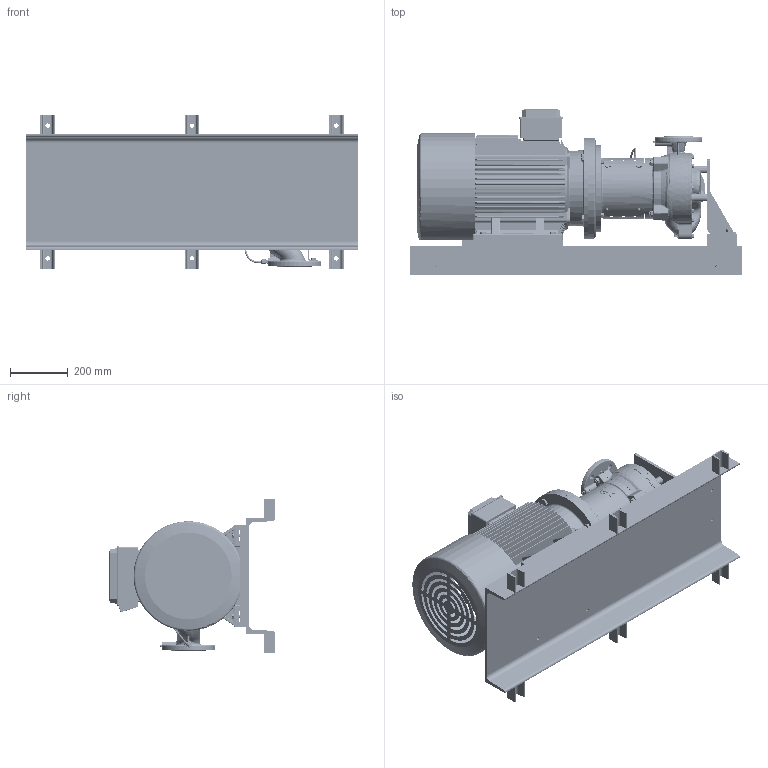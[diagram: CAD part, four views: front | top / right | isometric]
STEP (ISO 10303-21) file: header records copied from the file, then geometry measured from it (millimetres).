
FILE_DESCRIPTION((''),'2;1');
FILE_NAME('695857_ASM_ASM','2021-05-08T',('allz'),(''),'PRO/ENGINEER BY PARAMETRIC TECHNOLOGY CORPORATION, 2017170','PRO/ENGINEER BY PARAMETRIC TECHNOLOGY CORPORATION, 2017170','');
FILE_SCHEMA(('CONFIG_CONTROL_DESIGN'));
Products named in the file (52): 107063_1; 709166_1; 117127_1; 704055_1; 717991_1; 594090_1; 107062_1; 594110_1; 709052_1; 700305_1; 594070_1; 117126_1; 569990_1; 700031_1; 117133_1; 594540_1; 700356_1; 704390_1; 3141-000BA116_1; 700226_1; 704063_1; 107061_1; 700309_1; 700306_1; 702117_1; 117122_1; 695357_ASM_1_ASM; 117134_1; 593660_1; 107005_1; 107072_1; 32900489_1; 700319_1; 760225_1; 720488_1; 701076_1; 117132_1; 1833898_1; 117129_AF1_1; 708003_1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
Assembly tree (109 placements, depth 4):
  695857_ASM_ASM
    695857_ASM_1_ASM
      695357_ASM_1_ASM
        107063_1
        709166_1
        117127_1
        704055_1
        717991_1
        594090_1
        107062_1
        594110_1
        709052_1  x11
        700305_1  x10
        594070_1
        117126_1
        569990_1
        700031_1
        117133_1
        594540_1
        700356_1  x4
        704390_1  x4
        3141-000BA116_1  x2
        700226_1  x4
        704063_1  x4
        107061_1
        700309_1
        700306_1
        702117_1
        117122_1
      117134_1
      695359_ASM_1_ASM
        593660_1
        107005_1
        107072_1
        32900489_1
        700319_1  x4
        760225_1  x4
        720488_1  x8
        701076_1
        117132_1
        1833898_1
        117129_AF1_1
        708003_1  x4
        701081_1  x4
        703203_1  x2
        117128_AF0_1
      842442_1
      695362_ASM_1_ASM
        107007_AF0_1
        700318_1  x4
        700316_1  x2
      700365_1  x3
Bounding box: 1150 x 575 x 530 mm (x, y, z)
Volume: 56397851.3 mm3; surface area: 6054871.9 mm2
Topology: 105 solids, 169 shells, 5859 faces, 15642 edges, 10221 vertices
Faces by surface type: plane 2156, cylinder 1455, cone 782, bspline 732, extrusion 465, torus 247, sphere 22
Entity records: 231328 total; most frequent: CARTESIAN_POINT 113642, ORIENTED_EDGE 26377, DIRECTION 20655, EDGE_CURVE 13340, VERTEX_POINT 8767, AXIS2_PLACEMENT_3D 7608, EDGE_LOOP 5525, VECTOR 5439
